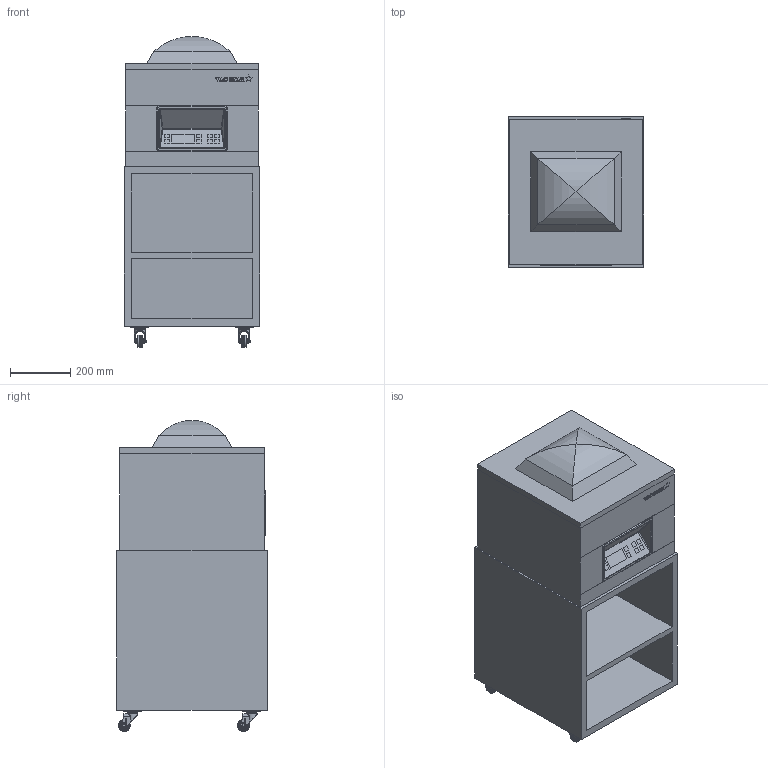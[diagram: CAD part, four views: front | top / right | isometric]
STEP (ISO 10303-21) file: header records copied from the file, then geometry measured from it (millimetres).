
FILE_DESCRIPTION(/* description */ ('Unknown'),/* implementation_level */ '2;1');
FILE_NAME(/* name */ 'C3D-S215-mit-Unterbau-S_AA',/* time_stamp */ '2021-10-22T09:39:34+02:00',/* author */ ('Unknown'),/* organization */ ('Unknown'),/* preprocessor_version */ 'ST-DEVELOPER v16.7',/* originating_system */ 'Solid Edge',/* authorisation */ 'Unknown');
FILE_SCHEMA (('AUTOMOTIVE_DESIGN {1 0 10303 214 3 1 1}'));
Length unit declared in the file: millimetre
Products named in the file (8): R-VAC-STAR_S215-m.U.; R-VAC-STAR-UnterbauS; 310X PT 50 EL; 310X PT 50 EL_body; 310X PT 50 EL_shaft; 50 EL-6-X; 310X PT 50 EL_plate; R-VAC-STAR-S215
Assembly tree (10 placements, depth 3):
  R-VAC-STAR_S215-m.U.
    R-VAC-STAR-UnterbauS
    310X PT 50 EL  x4
      310X PT 50 EL_body
      310X PT 50 EL_shaft
      50 EL-6-X
      310X PT 50 EL_plate
    R-VAC-STAR-S215
Bounding box: 450 x 500 x 1030 mm (x, y, z)
Volume: 92297928.6 mm3; surface area: 4430876.5 mm2
Topology: 19 solids, 19 shells, 1546 faces, 3747 edges, 2418 vertices
Faces by surface type: plane 888, cylinder 359, cone 128, torus 116, bspline 29, sphere 26
Full cylindrical faces by diameter (mm): 0.025 x4, 0.1 x4, 1.2 x4, 1.25 x4, 6 x20, 7 x8, 7.8 x8, 9 x8, 10.8 x8, 13 x4, 21 x8, 30 x4, 34.5 x8, 36 x12, 37.5 x8, 39.5 x8, 40 x12
Entity records: 21291 total; most frequent: CARTESIAN_POINT 5736, ORIENTED_EDGE 2694, DIRECTION 2511, EDGE_CURVE 1347, VERTEX_POINT 912, AXIS2_PLACEMENT_3D 859, LINE 793, VECTOR 793
